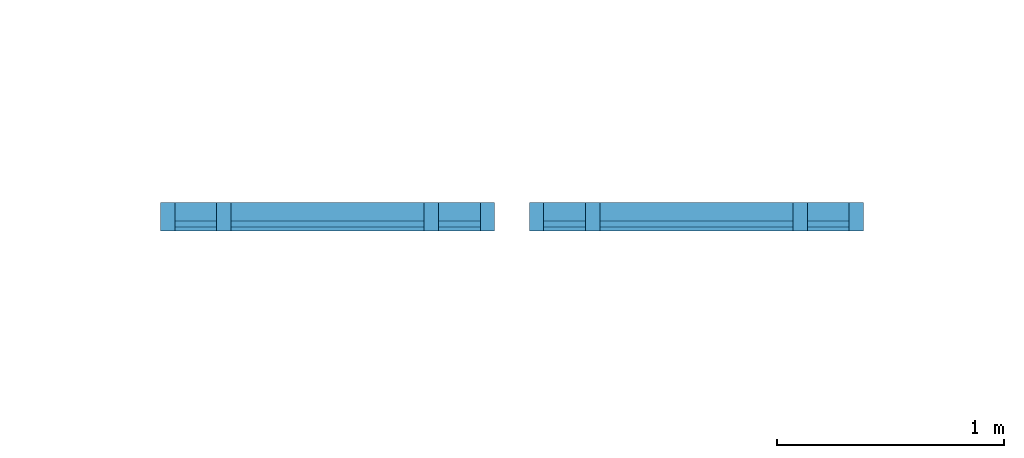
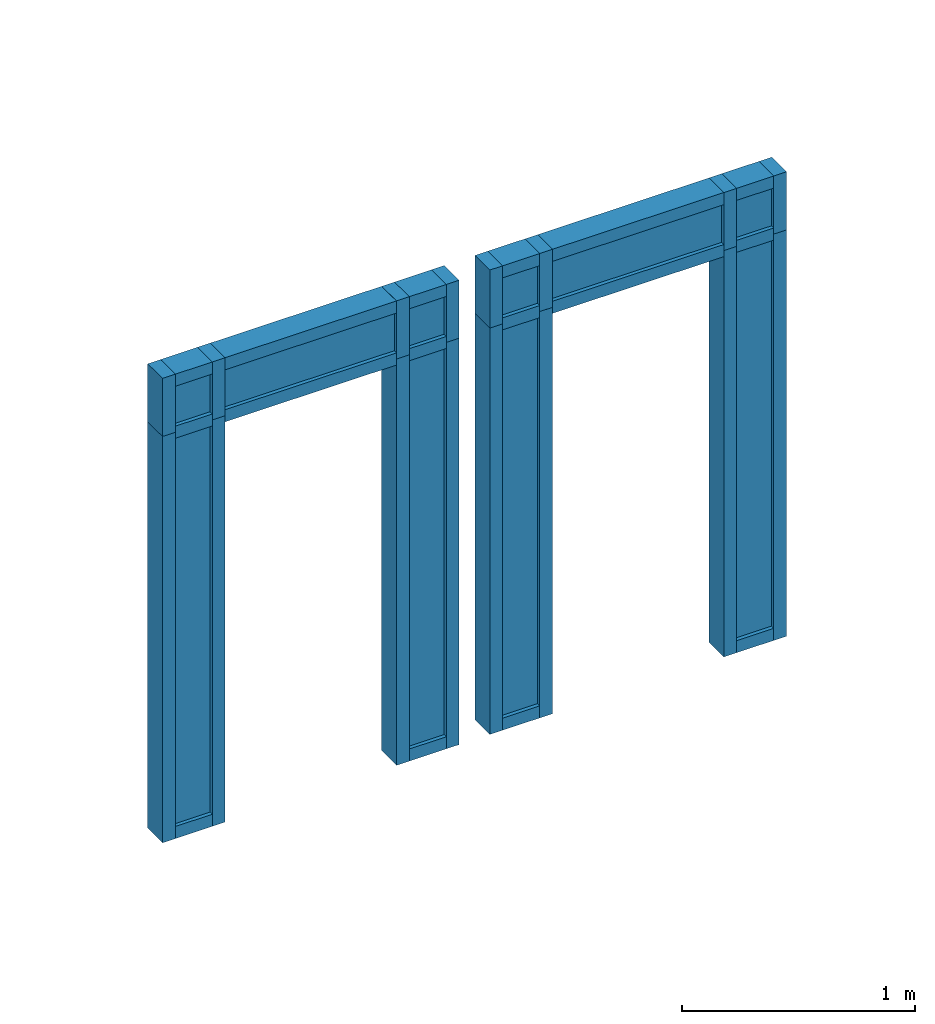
# One storey, part 1 of 3: 32 members, 10 plates, 2 elements without a shape of their own.
"""IFC2X3 building model written with IfcOpenShell, lengths in feet."""

from ifc_helpers import new_model, entity, si_unit, converted_unit, derived_unit, direction, frame, frame_2d, origin, origin_2d_with_axis, place, context, subcontext, project, spatial, rectangle, extrude, source, transform, mapped, material, layer, layer_set, layer_usage, type_object, type_shapes, element, aggregate, save


model = new_model("IFC2X3")

# Units and contexts
model_context = context("Model", 3, precision=0.0001, world=origin(), true_north=direction((6.12303176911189e-17, 1.0)))
body_context = subcontext(model_context, "Body", "Model", "MODEL_VIEW")
ifc_project = project(units=[converted_unit("LENGTHUNIT", "FOOT", entity("IfcRatioMeasure", 0.3048), si_unit("LENGTHUNIT", "METRE"), dimensions=[1, 0, 0, 0, 0, 0, 0]), converted_unit("AREAUNIT", "SQUARE FOOT", entity("IfcRatioMeasure", 0.09290304), si_unit("AREAUNIT", "SQUARE_METRE"), dimensions=[2, 0, 0, 0, 0, 0, 0]), converted_unit("VOLUMEUNIT", "CUBIC FOOT", entity("IfcRatioMeasure", 0.028316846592), si_unit("VOLUMEUNIT", "CUBIC_METRE"), dimensions=[3, 0, 0, 0, 0, 0, 0]), converted_unit("PLANEANGLEUNIT", "DEGREE", entity("IfcRatioMeasure", 0.0174532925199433), si_unit("PLANEANGLEUNIT", "RADIAN"), dimensions=[0, 0, 0, 0, 0, 0, 0]), si_unit("MASSUNIT", "GRAM", prefix="KILO"), derived_unit("MASSDENSITYUNIT", [(si_unit("MASSUNIT", "GRAM", prefix="KILO"), 1), (si_unit("LENGTHUNIT", "METRE"), -3)]), si_unit("TIMEUNIT", "SECOND"), si_unit("FREQUENCYUNIT", "HERTZ"), si_unit("THERMODYNAMICTEMPERATUREUNIT", "DEGREE_CELSIUS"), derived_unit("THERMALTRANSMITTANCEUNIT", [(si_unit("MASSUNIT", "GRAM", prefix="KILO"), 1), (si_unit("THERMODYNAMICTEMPERATUREUNIT", "KELVIN"), -1), (si_unit("TIMEUNIT", "SECOND"), -3)]), derived_unit("VOLUMETRICFLOWRATEUNIT", [(si_unit("LENGTHUNIT", "METRE"), 3), (si_unit("TIMEUNIT", "SECOND"), -1)]), si_unit("ELECTRICCURRENTUNIT", "AMPERE"), si_unit("ELECTRICVOLTAGEUNIT", "VOLT"), si_unit("POWERUNIT", "WATT"), si_unit("FORCEUNIT", "NEWTON"), si_unit("ILLUMINANCEUNIT", "LUX"), si_unit("LUMINOUSFLUXUNIT", "LUMEN"), si_unit("LUMINOUSINTENSITYUNIT", "CANDELA"), derived_unit("USERDEFINED", [(si_unit("MASSUNIT", "GRAM", prefix="KILO"), -1), (si_unit("LENGTHUNIT", "METRE"), -2), (si_unit("TIMEUNIT", "SECOND"), 3), (si_unit("LUMINOUSFLUXUNIT", "LUMEN"), 1)]), derived_unit("LINEARVELOCITYUNIT", [(si_unit("LENGTHUNIT", "METRE"), 1), (si_unit("TIMEUNIT", "SECOND"), -1)]), si_unit("PRESSUREUNIT", "PASCAL"), derived_unit("USERDEFINED", [(si_unit("LENGTHUNIT", "METRE"), -2), (si_unit("MASSUNIT", "GRAM", prefix="KILO"), 1), (si_unit("TIMEUNIT", "SECOND"), -2)])], contexts=[model_context])

# Site, building, storey
site_placement = place(None, origin())
site = spatial("IfcSite", under=ifc_project, at=site_placement, Name="Default", CompositionType="ELEMENT")
building_placement = place(site_placement, origin())
building = spatial("IfcBuilding", under=site, at=building_placement, CompositionType="ELEMENT")
storey_placement = place(building_placement, frame((0.0, 0.0, 60.0)))
storey = spatial("IfcBuildingStorey", under=building, at=storey_placement, Name="L 11", CompositionType="ELEMENT", Elevation=60.0)

# Curtain wall, member
curtain_wall_type = type_object("IfcCurtainWallType", Name="Curtain Wall:Storefront 2", PredefinedType="NOTDEFINED")
curtain_wall_1_placement = place(storey_placement, frame((0.0, 0.0, -60.0)))
curtain_wall_1 = element("IfcCurtainWall", 1, at=curtain_wall_1_placement, inside=storey, type_object=curtain_wall_type, Name="Curtain Wall:Storefront 2", ObjectType="Curtain Wall:Storefront 2")
ifc_material_1 = material(Name="Aluminum")
member_type_1 = type_object("IfcMemberType", Name="2.5\" x 5\" rectangular", PredefinedType="MEMBER")
shared_shape_1 = source(origin(), body_context, "Body", "SweptSolid", [
    extrude(rectangle(XDim=0.416666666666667, YDim=0.208333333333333, at=origin_2d_with_axis()), frame((-0.104166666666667, 0.0, -7.0), z_axis=(0.0, 0.0, 1.0), x_axis=(0.0, -1.0, 0.0)), (0.0, 0.0, 1.0), 7.0),
])
type_shapes(member_type_1, [shared_shape_1])
member_1_placement = place(storey_placement, frame((-39.0751627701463, -1.23280792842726, 0.0), z_axis=(0.0, 0.0, -1.0), x_axis=(-1.0, 0.0, 0.0)))
member_1 = element("IfcMember", 2, at=member_1_placement, type_object=member_type_1, material=ifc_material_1, Name="Rectangular Mullion:2.5\" x 5\" rectangular", ObjectType="2.5\" x 5\" rectangular", context=body_context, shape_type="MappedRepresentation", body=[
    mapped(shared_shape_1, transform((0.0, 0.0, 0.0), scale=1.0)),
])

curtain_wall_2_placement = place(storey_placement, frame((0.0, 0.0, -60.0)))
curtain_wall_2 = element("IfcCurtainWall", 3, at=curtain_wall_2_placement, inside=storey, type_object=curtain_wall_type, Name="Curtain Wall:Storefront 2", ObjectType="Curtain Wall:Storefront 2")
member_2_placement = place(storey_placement, frame((-33.7418294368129, -1.23280792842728, 0.0), z_axis=(0.0, 0.0, -1.0), x_axis=(-1.0, 0.0, 0.0)))
member_2 = element("IfcMember", 4, at=member_2_placement, type_object=member_type_1, material=ifc_material_1, Name="Rectangular Mullion:2.5\" x 5\" rectangular", ObjectType="2.5\" x 5\" rectangular", context=body_context, shape_type="MappedRepresentation", body=[
    mapped(shared_shape_1, transform((0.0, 0.0, 0.0), scale=1.0)),
])

# Member
member_type_2 = type_object("IfcMemberType", Name="2.5\" x 5\" rectangular", PredefinedType="MEMBER")
shared_shape_2 = source(origin(), body_context, "Body", "SweptSolid", [
    extrude(rectangle(XDim=0.416666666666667, YDim=0.208333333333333, at=origin_2d_with_axis()), frame((-0.104166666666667, 0.0, -7.0), z_axis=(0.0, 0.0, 1.0), x_axis=(0.0, -1.0, 0.0)), (0.0, 0.0, 1.0), 7.0),
])
type_shapes(member_type_2, [shared_shape_2])
member_3_placement = place(storey_placement, frame((-34.2418294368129, -1.23280792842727, 7.0)))
member_3 = element("IfcMember", 5, at=member_3_placement, type_object=member_type_2, material=ifc_material_1, Name="Rectangular Mullion:2.5\" x 5\" rectangular", ObjectType="2.5\" x 5\" rectangular", context=body_context, shape_type="MappedRepresentation", body=[
    mapped(shared_shape_2, transform((0.0, 0.0, 0.0), scale=1.0)),
])

member_4_placement = place(storey_placement, frame((-28.9084961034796, -1.23280792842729, 7.0)))
member_4 = element("IfcMember", 6, at=member_4_placement, type_object=member_type_2, material=ifc_material_1, Name="Rectangular Mullion:2.5\" x 5\" rectangular", ObjectType="2.5\" x 5\" rectangular", context=body_context, shape_type="MappedRepresentation", body=[
    mapped(shared_shape_2, transform((0.0, 0.0, 0.0), scale=1.0)),
])

member_type_3 = type_object("IfcMemberType", Name="2.5\" x 5\" rectangular", PredefinedType="MEMBER")
shared_shape_3 = source(origin(), body_context, "Body", "SweptSolid", [
    extrude(rectangle(XDim=0.416666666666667, YDim=0.208333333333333, at=origin_2d_with_axis()), frame((0.0, 0.0, -7.0), z_axis=(0.0, 0.0, 1.0), x_axis=(0.0, -1.0, 0.0)), (0.0, 0.0, 1.0), 7.0),
])
type_shapes(member_type_3, [shared_shape_3])
member_5_placement = place(storey_placement, frame((-35.1584961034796, -1.23280792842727, 0.0), z_axis=(0.0, 0.0, -1.0), x_axis=(-1.0, 0.0, 0.0)))
member_5 = element("IfcMember", 7, at=member_5_placement, type_object=member_type_3, material=ifc_material_1, Name="Rectangular Mullion:2.5\" x 5\" rectangular", ObjectType="2.5\" x 5\" rectangular", context=body_context, shape_type="MappedRepresentation", body=[
    mapped(shared_shape_3, transform((0.0, 0.0, 0.0), scale=1.0)),
])

member_6_placement = place(storey_placement, frame((-38.1584961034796, -1.23280792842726, 0.0), z_axis=(0.0, 0.0, -1.0), x_axis=(-1.0, 0.0, 0.0)))
member_6 = element("IfcMember", 8, at=member_6_placement, type_object=member_type_3, material=ifc_material_1, Name="Rectangular Mullion:2.5\" x 5\" rectangular", ObjectType="2.5\" x 5\" rectangular", context=body_context, shape_type="MappedRepresentation", body=[
    mapped(shared_shape_3, transform((0.0, 0.0, 0.0), scale=1.0)),
])

member_7_placement = place(storey_placement, frame((-29.8251627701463, -1.23280792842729, 0.0), z_axis=(0.0, 0.0, -1.0), x_axis=(-1.0, 0.0, 0.0)))
member_7 = element("IfcMember", 9, at=member_7_placement, type_object=member_type_3, material=ifc_material_1, Name="Rectangular Mullion:2.5\" x 5\" rectangular", ObjectType="2.5\" x 5\" rectangular", context=body_context, shape_type="MappedRepresentation", body=[
    mapped(shared_shape_3, transform((0.0, 0.0, 0.0), scale=1.0)),
])

member_8_placement = place(storey_placement, frame((-32.8251627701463, -1.23280792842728, 0.0), z_axis=(0.0, 0.0, -1.0), x_axis=(-1.0, 0.0, 0.0)))
member_8 = element("IfcMember", 10, at=member_8_placement, type_object=member_type_3, material=ifc_material_1, Name="Rectangular Mullion:2.5\" x 5\" rectangular", ObjectType="2.5\" x 5\" rectangular", context=body_context, shape_type="MappedRepresentation", body=[
    mapped(shared_shape_3, transform((0.0, 0.0, 0.0), scale=1.0)),
])

member_type_4 = type_object("IfcMemberType", Name="2.5\" x 5\" rectangular", PredefinedType="MEMBER")
shared_shape_4 = source(origin(), body_context, "Body", "SweptSolid", [
    extrude(rectangle(XDim=0.416666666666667, YDim=0.208333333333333, at=origin_2d_with_axis()), frame((-0.104166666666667, 0.0, -0.604166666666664), z_axis=(0.0, 0.0, 1.0), x_axis=(0.0, -1.0, 0.0)), (0.0, 0.0, 1.0), 0.604166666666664),
])
type_shapes(member_type_4, [shared_shape_4])
member_9_placement = place(storey_placement, frame((-38.8668294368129, -1.23280792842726, 8.0), z_axis=(-1.0, 0.0, 0.0), x_axis=(0.0, 0.0, 1.0)))
member_9 = element("IfcMember", 11, at=member_9_placement, type_object=member_type_4, material=ifc_material_1, Name="Rectangular Mullion:2.5\" x 5\" rectangular", ObjectType="2.5\" x 5\" rectangular", context=body_context, shape_type="MappedRepresentation", body=[
    mapped(shared_shape_4, transform((0.0, 0.0, 0.0), scale=1.0)),
])

member_10_placement = place(storey_placement, frame((-35.0543294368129, -1.23280792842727, 8.0), z_axis=(-1.0, 0.0, 0.0), x_axis=(0.0, 0.0, 1.0)))
member_10 = element("IfcMember", 12, at=member_10_placement, type_object=member_type_4, material=ifc_material_1, Name="Rectangular Mullion:2.5\" x 5\" rectangular", ObjectType="2.5\" x 5\" rectangular", context=body_context, shape_type="MappedRepresentation", body=[
    mapped(shared_shape_4, transform((0.0, 0.0, 0.0), scale=1.0)),
])

member_11_placement = place(storey_placement, frame((-33.5334961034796, -1.23280792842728, 8.0), z_axis=(-1.0, 0.0, 0.0), x_axis=(0.0, 0.0, 1.0)))
member_11 = element("IfcMember", 13, at=member_11_placement, type_object=member_type_4, material=ifc_material_1, Name="Rectangular Mullion:2.5\" x 5\" rectangular", ObjectType="2.5\" x 5\" rectangular", context=body_context, shape_type="MappedRepresentation", body=[
    mapped(shared_shape_4, transform((0.0, 0.0, 0.0), scale=1.0)),
])

member_12_placement = place(storey_placement, frame((-29.7209961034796, -1.23280792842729, 8.0), z_axis=(-1.0, 0.0, 0.0), x_axis=(0.0, 0.0, 1.0)))
member_12 = element("IfcMember", 14, at=member_12_placement, type_object=member_type_4, material=ifc_material_1, Name="Rectangular Mullion:2.5\" x 5\" rectangular", ObjectType="2.5\" x 5\" rectangular", context=body_context, shape_type="MappedRepresentation", body=[
    mapped(shared_shape_4, transform((0.0, 0.0, 0.0), scale=1.0)),
])

member_type_5 = type_object("IfcMemberType", Name="2.5\" x 5\" rectangular", PredefinedType="MEMBER")
shared_shape_5 = source(origin(), body_context, "Body", "SweptSolid", [
    extrude(rectangle(XDim=0.416666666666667, YDim=0.208333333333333, at=origin_2d_with_axis()), frame((-0.104166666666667, 0.0, -0.604166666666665), z_axis=(0.0, 0.0, 1.0), x_axis=(0.0, -1.0, 0.0)), (0.0, 0.0, 1.0), 0.604166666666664),
])
type_shapes(member_type_5, [shared_shape_5])
member_13_placement = place(storey_placement, frame((-34.4501627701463, -1.23280792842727, 0.0), z_axis=(1.0, 0.0, 0.0), x_axis=(0.0, 0.0, -1.0)))
member_13 = element("IfcMember", 15, at=member_13_placement, type_object=member_type_5, material=ifc_material_1, Name="Rectangular Mullion:2.5\" x 5\" rectangular", ObjectType="2.5\" x 5\" rectangular", context=body_context, shape_type="MappedRepresentation", body=[
    mapped(shared_shape_5, transform((0.0, 0.0, 0.0), scale=1.0)),
])

member_14_placement = place(storey_placement, frame((-38.2626627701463, -1.23280792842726, 0.0), z_axis=(1.0, 0.0, 0.0), x_axis=(0.0, 0.0, -1.0)))
member_14 = element("IfcMember", 16, at=member_14_placement, type_object=member_type_5, material=ifc_material_1, Name="Rectangular Mullion:2.5\" x 5\" rectangular", ObjectType="2.5\" x 5\" rectangular", context=body_context, shape_type="MappedRepresentation", body=[
    mapped(shared_shape_5, transform((0.0, 0.0, 0.0), scale=1.0)),
])

member_15_placement = place(storey_placement, frame((-29.1168294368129, -1.23280792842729, 0.0), z_axis=(1.0, 0.0, 0.0), x_axis=(0.0, 0.0, -1.0)))
member_15 = element("IfcMember", 17, at=member_15_placement, type_object=member_type_5, material=ifc_material_1, Name="Rectangular Mullion:2.5\" x 5\" rectangular", ObjectType="2.5\" x 5\" rectangular", context=body_context, shape_type="MappedRepresentation", body=[
    mapped(shared_shape_5, transform((0.0, 0.0, 0.0), scale=1.0)),
])

member_16_placement = place(storey_placement, frame((-32.9293294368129, -1.23280792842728, 0.0), z_axis=(1.0, 0.0, 0.0), x_axis=(0.0, 0.0, -1.0)))
member_16 = element("IfcMember", 18, at=member_16_placement, type_object=member_type_5, material=ifc_material_1, Name="Rectangular Mullion:2.5\" x 5\" rectangular", ObjectType="2.5\" x 5\" rectangular", context=body_context, shape_type="MappedRepresentation", body=[
    mapped(shared_shape_5, transform((0.0, 0.0, 0.0), scale=1.0)),
])

member_type_6 = type_object("IfcMemberType", Name="2.5\" x 5\" rectangular", PredefinedType="MEMBER")
shared_shape_6 = source(origin(), body_context, "Body", "SweptSolid", [
    extrude(rectangle(XDim=0.416666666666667, YDim=0.208333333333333, at=origin_2d_with_axis()), frame((0.0, 0.0, -0.604166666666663), z_axis=(0.0, 0.0, 1.0), x_axis=(0.0, -1.0, 0.0)), (0.0, 0.0, 1.0), 0.604166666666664),
])
type_shapes(member_type_6, [shared_shape_6])
member_17_placement = place(storey_placement, frame((-35.0543294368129, -1.23280792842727, 7.0), z_axis=(-1.0, 0.0, 0.0), x_axis=(0.0, 0.0, 1.0)))
member_17 = element("IfcMember", 19, at=member_17_placement, type_object=member_type_6, material=ifc_material_1, Name="Rectangular Mullion:2.5\" x 5\" rectangular", ObjectType="2.5\" x 5\" rectangular", context=body_context, shape_type="MappedRepresentation", body=[
    mapped(shared_shape_6, transform((0.0, 0.0, 0.0), scale=1.0)),
])

member_18_placement = place(storey_placement, frame((-38.8668294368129, -1.23280792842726, 7.0), z_axis=(-1.0, 0.0, 0.0), x_axis=(0.0, 0.0, 1.0)))
member_18 = element("IfcMember", 20, at=member_18_placement, type_object=member_type_6, material=ifc_material_1, Name="Rectangular Mullion:2.5\" x 5\" rectangular", ObjectType="2.5\" x 5\" rectangular", context=body_context, shape_type="MappedRepresentation", body=[
    mapped(shared_shape_6, transform((0.0, 0.0, 0.0), scale=1.0)),
])

member_19_placement = place(storey_placement, frame((-29.7209961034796, -1.23280792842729, 7.0), z_axis=(-1.0, 0.0, 0.0), x_axis=(0.0, 0.0, 1.0)))
member_19 = element("IfcMember", 21, at=member_19_placement, type_object=member_type_6, material=ifc_material_1, Name="Rectangular Mullion:2.5\" x 5\" rectangular", ObjectType="2.5\" x 5\" rectangular", context=body_context, shape_type="MappedRepresentation", body=[
    mapped(shared_shape_6, transform((0.0, 0.0, 0.0), scale=1.0)),
])

member_20_placement = place(storey_placement, frame((-33.5334961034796, -1.23280792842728, 7.0), z_axis=(-1.0, 0.0, 0.0), x_axis=(0.0, 0.0, 1.0)))
member_20 = element("IfcMember", 22, at=member_20_placement, type_object=member_type_6, material=ifc_material_1, Name="Rectangular Mullion:2.5\" x 5\" rectangular", ObjectType="2.5\" x 5\" rectangular", context=body_context, shape_type="MappedRepresentation", body=[
    mapped(shared_shape_6, transform((0.0, 0.0, 0.0), scale=1.0)),
])

member_type_7 = type_object("IfcMemberType", Name="2.5\" x 5\" rectangular", PredefinedType="MEMBER")
shared_shape_7 = source(origin(), body_context, "Body", "SweptSolid", [
    extrude(rectangle(XDim=0.416666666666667, YDim=0.208333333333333, at=origin_2d_with_axis()), frame((0.0, 0.0, -2.79166666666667), z_axis=(0.0, 0.0, 1.0), x_axis=(0.0, -1.0, 0.0)), (0.0, 0.0, 1.0), 2.79166666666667),
])
type_shapes(member_type_7, [shared_shape_7])
member_21_placement = place(storey_placement, frame((-38.0543294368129, -1.23280792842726, 7.0), z_axis=(-1.0, 0.0, 0.0), x_axis=(0.0, 0.0, 1.0)))
member_21 = element("IfcMember", 23, at=member_21_placement, type_object=member_type_7, material=ifc_material_1, Name="Rectangular Mullion:2.5\" x 5\" rectangular", ObjectType="2.5\" x 5\" rectangular", context=body_context, shape_type="MappedRepresentation", body=[
    mapped(shared_shape_7, transform((0.0, 0.0, 0.0), scale=1.0)),
])

member_22_placement = place(storey_placement, frame((-32.7209961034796, -1.23280792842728, 7.0), z_axis=(-1.0, 0.0, 0.0), x_axis=(0.0, 0.0, 1.0)))
member_22 = element("IfcMember", 24, at=member_22_placement, type_object=member_type_7, material=ifc_material_1, Name="Rectangular Mullion:2.5\" x 5\" rectangular", ObjectType="2.5\" x 5\" rectangular", context=body_context, shape_type="MappedRepresentation", body=[
    mapped(shared_shape_7, transform((0.0, 0.0, 0.0), scale=1.0)),
])

member_type_8 = type_object("IfcMemberType", Name="2.5\" x 5\" rectangular", PredefinedType="MEMBER")
shared_shape_8 = source(origin(), body_context, "Body", "SweptSolid", [
    extrude(rectangle(XDim=0.416666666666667, YDim=0.208333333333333, at=origin_2d_with_axis()), frame((-0.104166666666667, 0.0, -2.79166666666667), z_axis=(0.0, 0.0, 1.0), x_axis=(0.0, -1.0, 0.0)), (0.0, 0.0, 1.0), 2.79166666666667),
])
type_shapes(member_type_8, [shared_shape_8])
member_23_placement = place(storey_placement, frame((-38.0543294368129, -1.23280792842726, 8.0), z_axis=(-1.0, 0.0, 0.0), x_axis=(0.0, 0.0, 1.0)))
member_23 = element("IfcMember", 25, at=member_23_placement, type_object=member_type_8, material=ifc_material_1, Name="Rectangular Mullion:2.5\" x 5\" rectangular", ObjectType="2.5\" x 5\" rectangular", context=body_context, shape_type="MappedRepresentation", body=[
    mapped(shared_shape_8, transform((0.0, 0.0, 0.0), scale=1.0)),
])

member_24_placement = place(storey_placement, frame((-32.7209961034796, -1.23280792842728, 8.0), z_axis=(-1.0, 0.0, 0.0), x_axis=(0.0, 0.0, 1.0)))
member_24 = element("IfcMember", 26, at=member_24_placement, type_object=member_type_8, material=ifc_material_1, Name="Rectangular Mullion:2.5\" x 5\" rectangular", ObjectType="2.5\" x 5\" rectangular", context=body_context, shape_type="MappedRepresentation", body=[
    mapped(shared_shape_8, transform((0.0, 0.0, 0.0), scale=1.0)),
])

member_type_9 = type_object("IfcMemberType", Name="2.5\" x 5\" rectangular", PredefinedType="MEMBER")
shared_shape_9 = source(origin(), body_context, "Body", "SweptSolid", [
    extrude(rectangle(XDim=0.416666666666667, YDim=0.208333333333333, at=origin_2d_with_axis()), frame((-0.104166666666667, 0.0, -1.0), z_axis=(0.0, 0.0, 1.0), x_axis=(0.0, -1.0, 0.0)), (0.0, 0.0, 1.0), 1.0),
])
type_shapes(member_type_9, [shared_shape_9])
member_25_placement = place(storey_placement, frame((-39.0751627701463, -1.23280792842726, 7.0), z_axis=(0.0, 0.0, -1.0), x_axis=(-1.0, 0.0, 0.0)))
member_25 = element("IfcMember", 27, at=member_25_placement, type_object=member_type_9, material=ifc_material_1, Name="Rectangular Mullion:2.5\" x 5\" rectangular", ObjectType="2.5\" x 5\" rectangular", context=body_context, shape_type="MappedRepresentation", body=[
    mapped(shared_shape_9, transform((0.0, 0.0, 0.0), scale=1.0)),
])

member_26_placement = place(storey_placement, frame((-33.7418294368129, -1.23280792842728, 7.0), z_axis=(0.0, 0.0, -1.0), x_axis=(-1.0, 0.0, 0.0)))
member_26 = element("IfcMember", 28, at=member_26_placement, type_object=member_type_9, material=ifc_material_1, Name="Rectangular Mullion:2.5\" x 5\" rectangular", ObjectType="2.5\" x 5\" rectangular", context=body_context, shape_type="MappedRepresentation", body=[
    mapped(shared_shape_9, transform((0.0, 0.0, 0.0), scale=1.0)),
])

member_type_10 = type_object("IfcMemberType", Name="2.5\" x 5\" rectangular", PredefinedType="MEMBER")
shared_shape_10 = source(origin(), body_context, "Body", "SweptSolid", [
    extrude(rectangle(XDim=0.416666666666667, YDim=0.208333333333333, at=origin_2d_with_axis()), frame((-0.104166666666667, 0.0, -1.0), z_axis=(0.0, 0.0, 1.0), x_axis=(0.0, -1.0, 0.0)), (0.0, 0.0, 1.0), 1.0),
])
type_shapes(member_type_10, [shared_shape_10])
member_27_placement = place(storey_placement, frame((-34.2418294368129, -1.23280792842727, 8.0)))
member_27 = element("IfcMember", 29, at=member_27_placement, type_object=member_type_10, material=ifc_material_1, Name="Rectangular Mullion:2.5\" x 5\" rectangular", ObjectType="2.5\" x 5\" rectangular", context=body_context, shape_type="MappedRepresentation", body=[
    mapped(shared_shape_10, transform((0.0, 0.0, 0.0), scale=1.0)),
])

member_28_placement = place(storey_placement, frame((-28.9084961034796, -1.23280792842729, 8.0)))
member_28 = element("IfcMember", 30, at=member_28_placement, type_object=member_type_10, material=ifc_material_1, Name="Rectangular Mullion:2.5\" x 5\" rectangular", ObjectType="2.5\" x 5\" rectangular", context=body_context, shape_type="MappedRepresentation", body=[
    mapped(shared_shape_10, transform((0.0, 0.0, 0.0), scale=1.0)),
])

member_type_11 = type_object("IfcMemberType", Name="2.5\" x 5\" rectangular", PredefinedType="MEMBER")
shared_shape_11 = source(origin(), body_context, "Body", "SweptSolid", [
    extrude(rectangle(XDim=0.416666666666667, YDim=0.208333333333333, at=origin_2d_with_axis()), frame((0.0, 0.0, -1.0), z_axis=(0.0, 0.0, 1.0), x_axis=(0.0, -1.0, 0.0)), (0.0, 0.0, 1.0), 1.0),
])
type_shapes(member_type_11, [shared_shape_11])
member_29_placement = place(storey_placement, frame((-35.1584961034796, -1.23280792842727, 7.0), z_axis=(0.0, 0.0, -1.0), x_axis=(-1.0, 0.0, 0.0)))
member_29 = element("IfcMember", 31, at=member_29_placement, type_object=member_type_11, material=ifc_material_1, Name="Rectangular Mullion:2.5\" x 5\" rectangular", ObjectType="2.5\" x 5\" rectangular", context=body_context, shape_type="MappedRepresentation", body=[
    mapped(shared_shape_11, transform((0.0, 0.0, 0.0), scale=1.0)),
])

member_30_placement = place(storey_placement, frame((-38.1584961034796, -1.23280792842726, 7.0), z_axis=(0.0, 0.0, -1.0), x_axis=(-1.0, 0.0, 0.0)))
member_30 = element("IfcMember", 32, at=member_30_placement, type_object=member_type_11, material=ifc_material_1, Name="Rectangular Mullion:2.5\" x 5\" rectangular", ObjectType="2.5\" x 5\" rectangular", context=body_context, shape_type="MappedRepresentation", body=[
    mapped(shared_shape_11, transform((0.0, 0.0, 0.0), scale=1.0)),
])

member_31_placement = place(storey_placement, frame((-29.8251627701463, -1.23280792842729, 7.0), z_axis=(0.0, 0.0, -1.0), x_axis=(-1.0, 0.0, 0.0)))
member_31 = element("IfcMember", 33, at=member_31_placement, type_object=member_type_11, material=ifc_material_1, Name="Rectangular Mullion:2.5\" x 5\" rectangular", ObjectType="2.5\" x 5\" rectangular", context=body_context, shape_type="MappedRepresentation", body=[
    mapped(shared_shape_11, transform((0.0, 0.0, 0.0), scale=1.0)),
])

member_32_placement = place(storey_placement, frame((-32.8251627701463, -1.23280792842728, 7.0), z_axis=(0.0, 0.0, -1.0), x_axis=(-1.0, 0.0, 0.0)))
member_32 = element("IfcMember", 34, at=member_32_placement, type_object=member_type_11, material=ifc_material_1, Name="Rectangular Mullion:2.5\" x 5\" rectangular", ObjectType="2.5\" x 5\" rectangular", context=body_context, shape_type="MappedRepresentation", body=[
    mapped(shared_shape_11, transform((0.0, 0.0, 0.0), scale=1.0)),
])

# Plate
ifc_material_2 = material(Name="<Unnamed>")
ifc_layer = layer(ifc_material_2, 0.0833333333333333)
ifc_layer_set = layer_set([ifc_layer], Name="Curtain Wall:Storefront")
ifc_layer_usage_1 = layer_usage(ifc_layer_set, "AXIS3", "POSITIVE", 0.104166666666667)
plate_type_1 = type_object("IfcPlateType", Name="Glazed", PredefinedType="CURTAIN_PANEL", material=ifc_layer_set)
shared_shape_12 = source(origin(), body_context, "Body", "SweptSolid", [
    extrude(rectangle(XDim=0.0833333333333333, YDim=0.604166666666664, at=frame_2d((-6.93889390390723e-18, -2.77555756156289e-17), x_axis=(1.0, 0.0))), frame((0.0, 0.104166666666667, 0.0), z_axis=(0.0, 0.0, 1.0), x_axis=(0.0, 1.0, 0.0)), (0.0, 0.0, 1.0), 6.6875),
])
type_shapes(plate_type_1, [shared_shape_12])
plate_1_placement = place(curtain_wall_1_placement, frame((-34.7522461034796, -1.23280792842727, 60.2083333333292), z_axis=(0.0, 0.0, 1.0), x_axis=(-1.0, 0.0, 0.0)))
plate_1 = element("IfcPlate", 35, at=plate_1_placement, type_object=plate_type_1, material=ifc_layer_usage_1, Name="System Panel:Glazed", ObjectType="Glazed", context=body_context, shape_type="MappedRepresentation", body=[
    mapped(shared_shape_12, transform((0.0, 0.0, 0.0), scale=1.0)),
])

ifc_layer_usage_2 = layer_usage(ifc_layer_set, "AXIS3", "POSITIVE", 0.104166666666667)
plate_2_placement = place(curtain_wall_1_placement, frame((-38.5647461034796, -1.23280792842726, 60.2083333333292), z_axis=(0.0, 0.0, 1.0), x_axis=(-1.0, 0.0, 0.0)))
plate_2 = element("IfcPlate", 36, at=plate_2_placement, type_object=plate_type_1, material=ifc_layer_usage_2, Name="System Panel:Glazed", ObjectType="Glazed", context=body_context, shape_type="MappedRepresentation", body=[
    mapped(shared_shape_12, transform((0.0, 0.0, 0.0), scale=1.0)),
])

ifc_layer_usage_3 = layer_usage(ifc_layer_set, "AXIS3", "POSITIVE", 0.104166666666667)
plate_3_placement = place(curtain_wall_2_placement, frame((-29.4189127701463, -1.23280792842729, 60.2083333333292), z_axis=(0.0, 0.0, 1.0), x_axis=(-1.0, 0.0, 0.0)))
plate_3 = element("IfcPlate", 37, at=plate_3_placement, type_object=plate_type_1, material=ifc_layer_usage_3, Name="System Panel:Glazed", ObjectType="Glazed", context=body_context, shape_type="MappedRepresentation", body=[
    mapped(shared_shape_12, transform((0.0, 0.0, 0.0), scale=1.0)),
])

ifc_layer_usage_4 = layer_usage(ifc_layer_set, "AXIS3", "POSITIVE", 0.104166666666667)
plate_4_placement = place(curtain_wall_2_placement, frame((-33.2314127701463, -1.23280792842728, 60.2083333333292), z_axis=(0.0, 0.0, 1.0), x_axis=(-1.0, 0.0, 0.0)))
plate_4 = element("IfcPlate", 38, at=plate_4_placement, type_object=plate_type_1, material=ifc_layer_usage_4, Name="System Panel:Glazed", ObjectType="Glazed", context=body_context, shape_type="MappedRepresentation", body=[
    mapped(shared_shape_12, transform((0.0, 0.0, 0.0), scale=1.0)),
])

ifc_layer_usage_5 = layer_usage(ifc_layer_set, "AXIS3", "POSITIVE", 0.104166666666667)
plate_type_2 = type_object("IfcPlateType", Name="Glazed", PredefinedType="CURTAIN_PANEL", material=ifc_layer_set)
shared_shape_13 = source(origin(), body_context, "Body", "SweptSolid", [
    extrude(rectangle(XDim=0.0833333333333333, YDim=0.604166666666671, at=frame_2d((-6.93889390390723e-18, -2.77555756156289e-17), x_axis=(1.0, 0.0))), frame((0.0, 0.104166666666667, 0.0), z_axis=(0.0, 0.0, 1.0), x_axis=(0.0, 1.0, 0.0)), (0.0, 0.0, 1.0), 0.6875),
])
type_shapes(plate_type_2, [shared_shape_13])
plate_5_placement = place(curtain_wall_1_placement, frame((-34.7522461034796, -1.23280792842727, 67.1041666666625), z_axis=(0.0, 0.0, 1.0), x_axis=(-1.0, 0.0, 0.0)))
plate_5 = element("IfcPlate", 39, at=plate_5_placement, type_object=plate_type_2, material=ifc_layer_usage_5, Name="System Panel:Glazed", ObjectType="Glazed", context=body_context, shape_type="MappedRepresentation", body=[
    mapped(shared_shape_13, transform((0.0, 0.0, 0.0), scale=1.0)),
])

ifc_layer_usage_6 = layer_usage(ifc_layer_set, "AXIS3", "POSITIVE", 0.104166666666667)
plate_6_placement = place(curtain_wall_1_placement, frame((-38.5647461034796, -1.23280792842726, 67.1041666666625), z_axis=(0.0, 0.0, 1.0), x_axis=(-1.0, 0.0, 0.0)))
plate_6 = element("IfcPlate", 40, at=plate_6_placement, type_object=plate_type_2, material=ifc_layer_usage_6, Name="System Panel:Glazed", ObjectType="Glazed", context=body_context, shape_type="MappedRepresentation", body=[
    mapped(shared_shape_13, transform((0.0, 0.0, 0.0), scale=1.0)),
])

ifc_layer_usage_7 = layer_usage(ifc_layer_set, "AXIS3", "POSITIVE", 0.104166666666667)
plate_7_placement = place(curtain_wall_2_placement, frame((-29.4189127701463, -1.23280792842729, 67.1041666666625), z_axis=(0.0, 0.0, 1.0), x_axis=(-1.0, 0.0, 0.0)))
plate_7 = element("IfcPlate", 41, at=plate_7_placement, type_object=plate_type_2, material=ifc_layer_usage_7, Name="System Panel:Glazed", ObjectType="Glazed", context=body_context, shape_type="MappedRepresentation", body=[
    mapped(shared_shape_13, transform((0.0, 0.0, 0.0), scale=1.0)),
])

ifc_layer_usage_8 = layer_usage(ifc_layer_set, "AXIS3", "POSITIVE", 0.104166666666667)
plate_8_placement = place(curtain_wall_2_placement, frame((-33.2314127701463, -1.23280792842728, 67.1041666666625), z_axis=(0.0, 0.0, 1.0), x_axis=(-1.0, 0.0, 0.0)))
plate_8 = element("IfcPlate", 42, at=plate_8_placement, type_object=plate_type_2, material=ifc_layer_usage_8, Name="System Panel:Glazed", ObjectType="Glazed", context=body_context, shape_type="MappedRepresentation", body=[
    mapped(shared_shape_13, transform((0.0, 0.0, 0.0), scale=1.0)),
])

ifc_layer_usage_9 = layer_usage(ifc_layer_set, "AXIS3", "POSITIVE", 0.104166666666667)
plate_type_3 = type_object("IfcPlateType", Name="Glazed", PredefinedType="CURTAIN_PANEL", material=ifc_layer_set)
shared_shape_14 = source(origin(), body_context, "Body", "SweptSolid", [
    extrude(rectangle(XDim=0.0833333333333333, YDim=2.79166666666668, at=frame_2d((-6.93889390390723e-18, 0.0), x_axis=(1.0, 0.0))), frame((0.0, 0.104166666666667, 0.0), z_axis=(0.0, 0.0, 1.0), x_axis=(0.0, 1.0, 0.0)), (0.0, 0.0, 1.0), 0.6875),
])
type_shapes(plate_type_3, [shared_shape_14])
plate_9_placement = place(curtain_wall_1_placement, frame((-36.6584961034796, -1.23280792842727, 67.1041666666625), z_axis=(0.0, 0.0, 1.0), x_axis=(-1.0, 0.0, 0.0)))
plate_9 = element("IfcPlate", 43, at=plate_9_placement, type_object=plate_type_3, material=ifc_layer_usage_9, Name="System Panel:Glazed", ObjectType="Glazed", context=body_context, shape_type="MappedRepresentation", body=[
    mapped(shared_shape_14, transform((0.0, 0.0, 0.0), scale=1.0)),
])

aggregate(curtain_wall_1, [plate_1, plate_2, plate_5, plate_9, plate_6, member_9, member_13, member_1, member_25, member_27, member_3, member_17, member_10, member_21, member_5, member_29, member_23, member_14, member_18, member_6, member_30])

ifc_layer_usage_10 = layer_usage(ifc_layer_set, "AXIS3", "POSITIVE", 0.104166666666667)
plate_10_placement = place(curtain_wall_2_placement, frame((-31.3251627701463, -1.23280792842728, 67.1041666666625), z_axis=(0.0, 0.0, 1.0), x_axis=(-1.0, 0.0, 0.0)))
plate_10 = element("IfcPlate", 44, at=plate_10_placement, type_object=plate_type_3, material=ifc_layer_usage_10, Name="System Panel:Glazed", ObjectType="Glazed", context=body_context, shape_type="MappedRepresentation", body=[
    mapped(shared_shape_14, transform((0.0, 0.0, 0.0), scale=1.0)),
])

aggregate(curtain_wall_2, [plate_3, plate_4, plate_7, plate_10, plate_8, member_11, member_15, member_2, member_26, member_28, member_4, member_19, member_12, member_22, member_7, member_31, member_24, member_16, member_20, member_8, member_32])

save(model, "model.ifc")
